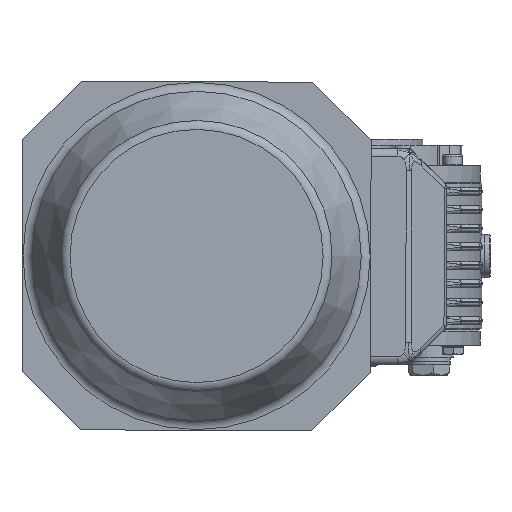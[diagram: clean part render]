
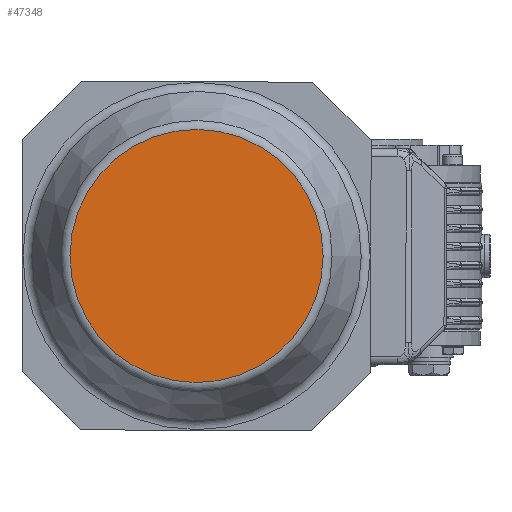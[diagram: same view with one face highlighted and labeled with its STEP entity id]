
A CAD part, left-side view. The second image highlights one B-rep face of the part: STEP entity #47348.
In plain terms, the highlighted planar face has unit normal (-1, 0, 0) as drawn and (1, 0, 0) by its records, which use the part's own axes.
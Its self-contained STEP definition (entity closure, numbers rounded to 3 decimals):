
#47325=CARTESIAN_POINT('',(308.0,0.0,64.298));
#47326=VERTEX_POINT('',#47325);
#47327=CARTESIAN_POINT('',(308.0,0.0,0.0));
#47328=DIRECTION('',(-1.0,0.0,0.0));
#47329=DIRECTION('',(0.0,0.0,-1.0));
#47330=AXIS2_PLACEMENT_3D('',#47327,#47328,#47329);
#47331=CIRCLE('',#47330,64.298);
#47332=EDGE_CURVE('',#47326,#47326,#47331,.T.);
#47340=CARTESIAN_POINT('',(308.0,0.0,33.75));
#47341=DIRECTION('',(1.0,0.0,0.0));
#47342=DIRECTION('',(0.0,0.0,-1.0));
#47343=AXIS2_PLACEMENT_3D('',#47340,#47341,#47342);
#47344=PLANE('',#47343);
#47345=ORIENTED_EDGE('',*,*,#47332,.F.);
#47346=EDGE_LOOP('',(#47345));
#47347=FACE_OUTER_BOUND('',#47346,.T.);
#47348=ADVANCED_FACE('',(#47347),#47344,.T.);
